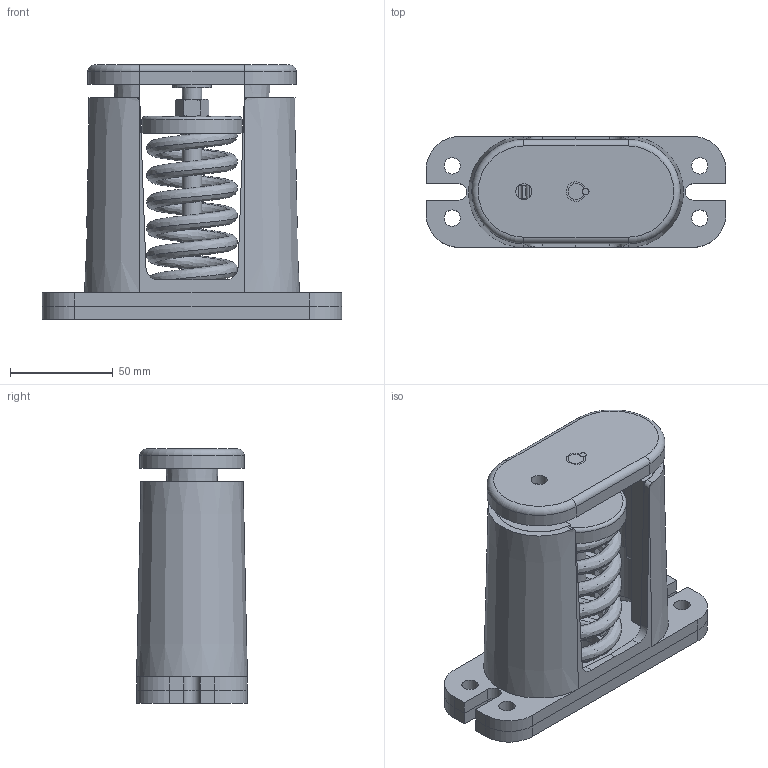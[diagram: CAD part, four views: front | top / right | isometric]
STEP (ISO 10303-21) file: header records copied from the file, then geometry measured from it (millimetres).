
FILE_DESCRIPTION(/* description */ (''),/* implementation_level */ '2;1');
FILE_NAME(/* name */ 'C:\001_Work\Designs\C MOUNTS\CI-A\CI-A-625.stp',/* time_stamp */ '2015-12-05T19:59:59-05:00',/* author */ ('rramoutar'),/* organization */ ('Mason Industries Inc.'),/* preprocessor_version */ 'ST-DEVELOPER v15.6',/* originating_system */ 'Autodesk Inventor 2015',/* authorisation */ '');
FILE_SCHEMA (('CONFIG_CONTROL_DESIGN'));
Length unit declared in the file: inch
Products named in the file (1): CI-A-625
Bounding box: 146.05 x 53.98 x 123.83 mm (x, y, z)
Volume: 292875.2 mm3; surface area: 136794.2 mm2
Topology: 1 solids, 2 shells, 222 faces, 570 edges, 363 vertices
Faces by surface type: plane 106, cylinder 58, cone 32, bspline 22, torus 4
Full cylindrical faces by diameter (mm): 7.798 x1, 7.938 x8, 9.525 x2, 11.112 x1, 26.987 x2, 45.244 x1, 49.039 x1
Entity records: 17032 total; most frequent: CARTESIAN_POINT 11643, ORIENTED_EDGE 1084, DIRECTION 1007, EDGE_CURVE 542, AXIS2_PLACEMENT_3D 372, VERTEX_POINT 355, EDGE_LOOP 265, LINE 263
